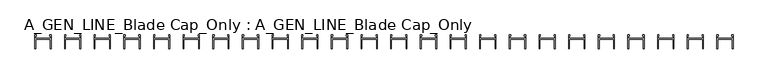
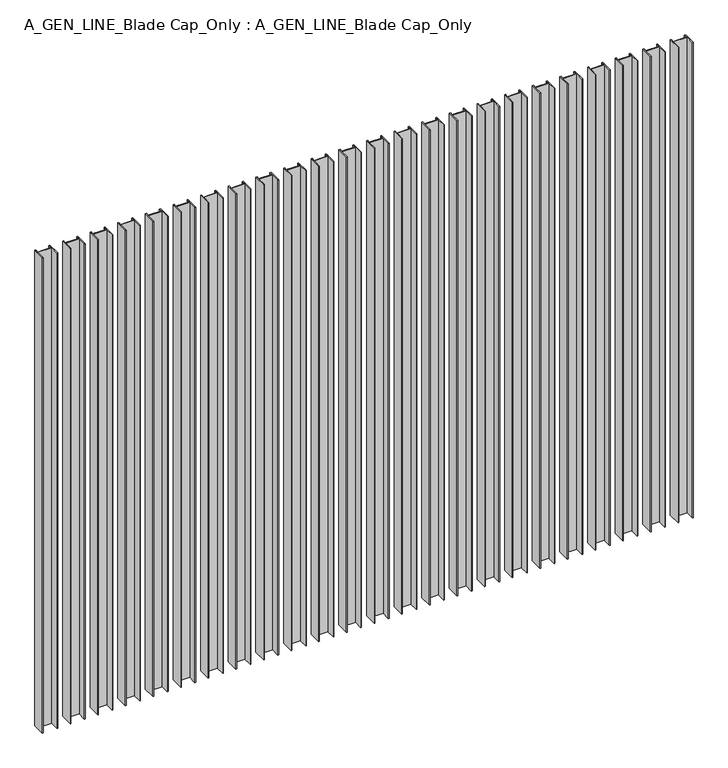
"""IFC4 building model written with IfcOpenShell, lengths in millimetres: proxy geometry, A_GEN_LINE_Blade Cap_Only : A_GEN_LINE_Blade Cap_Only."""

from ifc_helpers import new_model, si_unit, origin, origin_with_axes, place, context, project, spatial, polyline, outline, extrude, source, transform, mapped, element, save


def a_gen_line_blade_cap_only_a_gen_line_blade_cap_only_2f410b4f(model_context):
    return source(origin(), model_context, "Body", "SweptSolid", [
        extrude(outline(polyline([(1264.5964579, -32.0289818), (1264.5964579, -6.1), (1266.821175, -6.1), (1266.821175, -8.3419727), (1265.5147783, -8.7617834), (1265.5147783, -12.5079436), (1293.6781374, -12.5079436), (1293.6781374, -8.7374539), (1292.4474509, -8.3419727), (1292.4474509, -6.1), (1294.5964579, -6.1), (1294.5964579, -32.0289818), (1293.1964579, -32.0289818), (1293.1964579, -13.9079436), (1265.9964579, -13.9079436), (1265.9964579, -32.0289818), (1264.5964579, -32.0289818)])), origin_with_axes(), (0.0, 0.0, 1.0), 1000.0),
        extrude(outline(polyline([(1209.5959585, -32.0289818), (1209.5959585, -6.1), (1211.8206756, -6.1), (1211.8206756, -8.3419727), (1210.5142789, -8.7617834), (1210.5142789, -12.5079436), (1238.677638, -12.5079436), (1238.677638, -8.7374539), (1237.4469515, -8.3419727), (1237.4469515, -6.1), (1239.5959585, -6.1), (1239.5959585, -32.0289818), (1238.1959585, -32.0289818), (1238.1959585, -13.9079436), (1210.9959585, -13.9079436), (1210.9959585, -32.0289818), (1209.5959585, -32.0289818)])), origin_with_axes(), (0.0, 0.0, 1.0), 1000.0),
        extrude(outline(polyline([(1154.5954591, -32.0289818), (1154.5954591, -6.1), (1156.8201762, -6.1), (1156.8201762, -8.3419727), (1155.5137795, -8.7617834), (1155.5137795, -12.5079436), (1183.6771386, -12.5079436), (1183.6771386, -8.7374539), (1182.4464521, -8.3419727), (1182.4464521, -6.1), (1184.5954591, -6.1), (1184.5954591, -32.0289818), (1183.1954591, -32.0289818), (1183.1954591, -13.9079436), (1155.9954591, -13.9079436), (1155.9954591, -32.0289818), (1154.5954591, -32.0289818)])), origin_with_axes(), (0.0, 0.0, 1.0), 1000.0),
        extrude(outline(polyline([(1099.5949597, -32.0289818), (1099.5949597, -6.1), (1101.8196768, -6.1), (1101.8196768, -8.3419727), (1100.5132801, -8.7617834), (1100.5132801, -12.5079436), (1128.6766392, -12.5079436), (1128.6766392, -8.7374539), (1127.4459527, -8.3419727), (1127.4459527, -6.1), (1129.5949597, -6.1), (1129.5949597, -32.0289818), (1128.1949597, -32.0289818), (1128.1949597, -13.9079436), (1100.9949597, -13.9079436), (1100.9949597, -32.0289818), (1099.5949597, -32.0289818)])), origin_with_axes(), (0.0, 0.0, 1.0), 1000.0),
        extrude(outline(polyline([(1044.5944603, -32.0289818), (1044.5944603, -6.1), (1046.8191775, -6.1), (1046.8191775, -8.3419727), (1045.5127807, -8.7617834), (1045.5127807, -12.5079436), (1073.6761399, -12.5079436), (1073.6761399, -8.7374539), (1072.4454533, -8.3419727), (1072.4454533, -6.1), (1074.5944603, -6.1), (1074.5944603, -32.0289818), (1073.1944603, -32.0289818), (1073.1944603, -13.9079436), (1045.9944603, -13.9079436), (1045.9944603, -32.0289818), (1044.5944603, -32.0289818)])), origin_with_axes(), (0.0, 0.0, 1.0), 1000.0),
        extrude(outline(polyline([(989.5939609, -32.0289818), (989.5939609, -6.1), (991.8186781, -6.1), (991.8186781, -8.3419727), (990.5122813, -8.7617834), (990.5122813, -12.5079436), (1018.6756405, -12.5079436), (1018.6756405, -8.7374539), (1017.4449539, -8.3419727), (1017.4449539, -6.1), (1019.5939609, -6.1), (1019.5939609, -32.0289818), (1018.1939609, -32.0289818), (1018.1939609, -13.9079436), (990.9939609, -13.9079436), (990.9939609, -32.0289818), (989.5939609, -32.0289818)])), origin_with_axes(), (0.0, 0.0, 1.0), 1000.0),
        extrude(outline(polyline([(934.5934615, -32.0289818), (934.5934615, -6.1), (936.8181787, -6.1), (936.8181787, -8.3419727), (935.5117819, -8.7617834), (935.5117819, -12.5079436), (963.6751411, -12.5079436), (963.6751411, -8.7374539), (962.4444546, -8.3419727), (962.4444546, -6.1), (964.5934615, -6.1), (964.5934615, -32.0289818), (963.1934615, -32.0289818), (963.1934615, -13.9079436), (935.9934615, -13.9079436), (935.9934615, -32.0289818), (934.5934615, -32.0289818)])), origin_with_axes(), (0.0, 0.0, 1.0), 1000.0),
        extrude(outline(polyline([(879.5929621, -32.0289818), (879.5929621, -6.1), (881.8176793, -6.1), (881.8176793, -8.3419727), (880.5112826, -8.7617834), (880.5112826, -12.5079436), (908.6746417, -12.5079436), (908.6746417, -8.7374539), (907.4439552, -8.3419727), (907.4439552, -6.1), (909.5929621, -6.1), (909.5929621, -32.0289818), (908.1929621, -32.0289818), (908.1929621, -13.9079436), (880.9929621, -13.9079436), (880.9929621, -32.0289818), (879.5929621, -32.0289818)])), origin_with_axes(), (0.0, 0.0, 1.0), 1000.0),
        extrude(outline(polyline([(824.5924627, -32.0289818), (824.5924627, -6.1), (826.8171799, -6.1), (826.8171799, -8.3419727), (825.5107832, -8.7617834), (825.5107832, -12.5079436), (853.6741423, -12.5079436), (853.6741423, -8.7374539), (852.4434558, -8.3419727), (852.4434558, -6.1), (854.5924627, -6.1), (854.5924627, -32.0289818), (853.1924627, -32.0289818), (853.1924627, -13.9079436), (825.9924627, -13.9079436), (825.9924627, -32.0289818), (824.5924627, -32.0289818)])), origin_with_axes(), (0.0, 0.0, 1.0), 1000.0),
        extrude(outline(polyline([(769.5919633, -32.0289818), (769.5919633, -6.1), (771.8166805, -6.1), (771.8166805, -8.3419727), (770.5102838, -8.7617834), (770.5102838, -12.5079436), (798.6736429, -12.5079436), (798.6736429, -8.7374539), (797.4429564, -8.3419727), (797.4429564, -6.1), (799.5919633, -6.1), (799.5919633, -32.0289818), (798.1919633, -32.0289818), (798.1919633, -13.9079436), (770.9919633, -13.9079436), (770.9919633, -32.0289818), (769.5919633, -32.0289818)])), origin_with_axes(), (0.0, 0.0, 1.0), 1000.0),
        extrude(outline(polyline([(714.5914639, -32.0289818), (714.5914639, -6.1), (716.8161811, -6.1), (716.8161811, -8.3419727), (715.5097844, -8.7617834), (715.5097844, -12.5079436), (743.6731435, -12.5079436), (743.6731435, -8.7374539), (742.442457, -8.3419727), (742.442457, -6.1), (744.5914639, -6.1), (744.5914639, -32.0289818), (743.1914639, -32.0289818), (743.1914639, -13.9079436), (715.9914639, -13.9079436), (715.9914639, -32.0289818), (714.5914639, -32.0289818)])), origin_with_axes(), (0.0, 0.0, 1.0), 1000.0),
        extrude(outline(polyline([(659.5909646, -32.0289818), (659.5909646, -6.1), (661.8156817, -6.1), (661.8156817, -8.3419727), (660.509285, -8.7617834), (660.509285, -12.5079436), (688.6726441, -12.5079436), (688.6726441, -8.7374539), (687.4419576, -8.3419727), (687.4419576, -6.1), (689.5909646, -6.1), (689.5909646, -32.0289818), (688.1909646, -32.0289818), (688.1909646, -13.9079436), (660.9909646, -13.9079436), (660.9909646, -32.0289818), (659.5909646, -32.0289818)])), origin_with_axes(), (0.0, 0.0, 1.0), 1000.0),
        extrude(outline(polyline([(604.5904652, -32.0289818), (604.5904652, -6.1), (606.8151823, -6.1), (606.8151823, -8.3419727), (605.5087856, -8.7617834), (605.5087856, -12.5079436), (633.6721447, -12.5079436), (633.6721447, -8.7374539), (632.4414582, -8.3419727), (632.4414582, -6.1), (634.5904652, -6.1), (634.5904652, -32.0289818), (633.1904652, -32.0289818), (633.1904652, -13.9079436), (605.9904652, -13.9079436), (605.9904652, -32.0289818), (604.5904652, -32.0289818)])), origin_with_axes(), (0.0, 0.0, 1.0), 1000.0),
        extrude(outline(polyline([(549.5899658, -32.0289818), (549.5899658, -6.1), (551.8146829, -6.1), (551.8146829, -8.3419727), (550.5082862, -8.7617834), (550.5082862, -12.5079436), (578.6716453, -12.5079436), (578.6716453, -8.7374539), (577.4409588, -8.3419727), (577.4409588, -6.1), (579.5899658, -6.1), (579.5899658, -32.0289818), (578.1899658, -32.0289818), (578.1899658, -13.9079436), (550.9899658, -13.9079436), (550.9899658, -32.0289818), (549.5899658, -32.0289818)])), origin_with_axes(), (0.0, 0.0, 1.0), 1000.0),
        extrude(outline(polyline([(494.5894664, -32.0289818), (494.5894664, -6.1), (496.8141835, -6.1), (496.8141835, -8.3419727), (495.5077868, -8.7617834), (495.5077868, -12.5079436), (523.671146, -12.5079436), (523.671146, -8.7374539), (522.4404594, -8.3419727), (522.4404594, -6.1), (524.5894664, -6.1), (524.5894664, -32.0289818), (523.1894664, -32.0289818), (523.1894664, -13.9079436), (495.9894664, -13.9079436), (495.9894664, -32.0289818), (494.5894664, -32.0289818)])), origin_with_axes(), (0.0, 0.0, 1.0), 1000.0),
        extrude(outline(polyline([(439.588967, -32.0289818), (439.588967, -6.1), (441.8136842, -6.1), (441.8136842, -8.3419727), (440.5072874, -8.7617834), (440.5072874, -12.5079436), (468.6706466, -12.5079436), (468.6706466, -8.7374539), (467.43996, -8.3419727), (467.43996, -6.1), (469.588967, -6.1), (469.588967, -32.0289818), (468.188967, -32.0289818), (468.188967, -13.9079436), (440.988967, -13.9079436), (440.988967, -32.0289818), (439.588967, -32.0289818)])), origin_with_axes(), (0.0, 0.0, 1.0), 1000.0),
        extrude(outline(polyline([(384.5884676, -32.0289818), (384.5884676, -6.1), (386.8131848, -6.1), (386.8131848, -8.3419727), (385.506788, -8.7617834), (385.506788, -12.5079436), (413.6701472, -12.5079436), (413.6701472, -8.7374539), (412.4394606, -8.3419727), (412.4394606, -6.1), (414.5884676, -6.1), (414.5884676, -32.0289818), (413.1884676, -32.0289818), (413.1884676, -13.9079436), (385.9884676, -13.9079436), (385.9884676, -32.0289818), (384.5884676, -32.0289818)])), origin_with_axes(), (0.0, 0.0, 1.0), 1000.0),
        extrude(outline(polyline([(329.5879682, -32.0289818), (329.5879682, -6.1), (331.8126854, -6.1), (331.8126854, -8.3419727), (330.5062887, -8.7617834), (330.5062887, -12.5079436), (358.6696478, -12.5079436), (358.6696478, -8.7374539), (357.4389613, -8.3419727), (357.4389613, -6.1), (359.5879682, -6.1), (359.5879682, -32.0289818), (358.1879682, -32.0289818), (358.1879682, -13.9079436), (330.9879682, -13.9079436), (330.9879682, -32.0289818), (329.5879682, -32.0289818)])), origin_with_axes(), (0.0, 0.0, 1.0), 1000.0),
        extrude(outline(polyline([(274.5874688, -32.0289818), (274.5874688, -6.1), (276.812186, -6.1), (276.812186, -8.3419727), (275.5057893, -8.7617834), (275.5057893, -12.5079436), (303.6691484, -12.5079436), (303.6691484, -8.7374539), (302.4384619, -8.3419727), (302.4384619, -6.1), (304.5874688, -6.1), (304.5874688, -32.0289818), (303.1874688, -32.0289818), (303.1874688, -13.9079436), (275.9874688, -13.9079436), (275.9874688, -32.0289818), (274.5874688, -32.0289818)])), origin_with_axes(), (0.0, 0.0, 1.0), 1000.0),
        extrude(outline(polyline([(219.5869694, -32.0289818), (219.5869694, -6.1), (221.8116866, -6.1), (221.8116866, -8.3419727), (220.5052899, -8.7617834), (220.5052899, -12.5079436), (248.668649, -12.5079436), (248.668649, -8.7374539), (247.4379625, -8.3419727), (247.4379625, -6.1), (249.5869694, -6.1), (249.5869694, -32.0289818), (248.1869694, -32.0289818), (248.1869694, -13.9079436), (220.9869694, -13.9079436), (220.9869694, -32.0289818), (219.5869694, -32.0289818)])), origin_with_axes(), (0.0, 0.0, 1.0), 1000.0),
        extrude(outline(polyline([(164.58647, -32.0289818), (164.58647, -6.1), (166.8111872, -6.1), (166.8111872, -8.3419727), (165.5047905, -8.7617834), (165.5047905, -12.5079436), (193.6681496, -12.5079436), (193.6681496, -8.7374539), (192.4374631, -8.3419727), (192.4374631, -6.1), (194.58647, -6.1), (194.58647, -32.0289818), (193.18647, -32.0289818), (193.18647, -13.9079436), (165.98647, -13.9079436), (165.98647, -32.0289818), (164.58647, -32.0289818)])), origin_with_axes(), (0.0, 0.0, 1.0), 1000.0),
        extrude(outline(polyline([(109.5859707, -32.0289818), (109.5859707, -6.1), (111.8106878, -6.1), (111.8106878, -8.3419727), (110.5042911, -8.7617834), (110.5042911, -12.5079436), (138.6676502, -12.5079436), (138.6676502, -8.7374539), (137.4369637, -8.3419727), (137.4369637, -6.1), (139.5859707, -6.1), (139.5859707, -32.0289818), (138.1859707, -32.0289818), (138.1859707, -13.9079436), (110.9859707, -13.9079436), (110.9859707, -32.0289818), (109.5859707, -32.0289818)])), origin_with_axes(), (0.0, 0.0, 1.0), 1000.0),
        extrude(outline(polyline([(54.5854713, -32.0289818), (54.5854713, -6.1), (56.8101884, -6.1), (56.8101884, -8.3419727), (55.5037917, -8.7617834), (55.5037917, -12.5079436), (83.6671508, -12.5079436), (83.6671508, -8.7374539), (82.4364643, -8.3419727), (82.4364643, -6.1), (84.5854713, -6.1), (84.5854713, -32.0289818), (83.1854713, -32.0289818), (83.1854713, -13.9079436), (55.9854713, -13.9079436), (55.9854713, -32.0289818), (54.5854713, -32.0289818)])), origin_with_axes(), (0.0, 0.0, 1.0), 1000.0),
        extrude(outline(polyline([(-0.4150281, -32.0289818), (-0.4150281, -6.1), (1.809689, -6.1), (1.809689, -8.3419727), (0.5032923, -8.7617834), (0.5032923, -12.5079436), (28.6666514, -12.5079436), (28.6666514, -8.7374539), (27.4359649, -8.3419727), (27.4359649, -6.1), (29.5849719, -6.1), (29.5849719, -32.0289818), (28.1849719, -32.0289818), (28.1849719, -13.9079436), (0.9849719, -13.9079436), (0.9849719, -32.0289818), (-0.4150281, -32.0289818)])), origin_with_axes(), (0.0, 0.0, 1.0), 1000.0),
    ])


if __name__ == "__main__":
    model = new_model("IFC4")
    model_context = context("Model", 3, world=origin())
    ifc_project = project(units=[si_unit("LENGTHUNIT", "METRE", prefix="MILLI")], contexts=[model_context])
    site = spatial("IfcSite", under=ifc_project)
    building = spatial("IfcBuilding", under=site)
    placement = place(None, origin())
    a_gen_line_blade_cap_only_a_gen_line_blade_cap_only_shape = a_gen_line_blade_cap_only_a_gen_line_blade_cap_only_2f410b4f(model_context)
    element("IfcBuildingElementProxy", 1, Name="A_GEN_LINE_Blade Cap_Only : A_GEN_LINE_Blade Cap_Only", ObjectType="A_GEN_LINE_Blade Cap_Only : A_GEN_LINE_Blade Cap_Only", at=placement, inside=building, context=model_context, shape_type="MappedRepresentation", body=[
        mapped(a_gen_line_blade_cap_only_a_gen_line_blade_cap_only_shape, transform((0.0, 0.0, 0.0), x_axis=(1.0, 0.0, 0.0), y_axis=(0.0, 1.0, 0.0), z_axis=(0.0, 0.0, 1.0))),
    ])
    save(model, "model.ifc")
